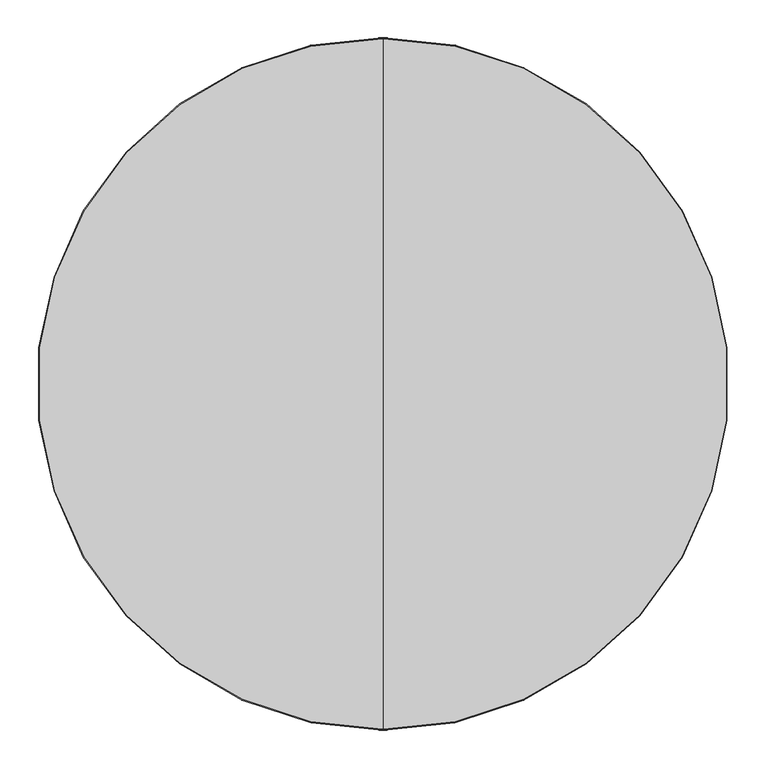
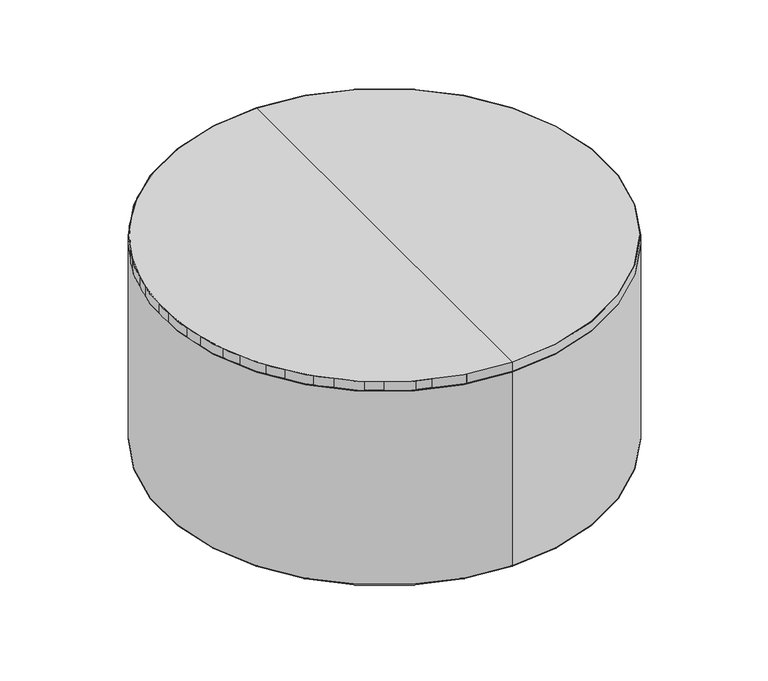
"""IFC4 building model written with IfcOpenShell, lengths in millimetres: furniture geometry, Indiana-Otty-Ottoman_Round_Table : 840-3618ROT."""

from ifc_helpers import new_model, si_unit, point, frame, origin, place, context, project, spatial, polyline, circle_curve, ellipse_curve, trimmed, source, transform, mapped, element, save
from ifc_brep_helpers import plane_surface, cylinder_surface, revolved_surface, advanced_brep


def furniture_db502461(model_context):
    return source(origin(), model_context, "Body", "AdvancedBrep", [
        advanced_brep(
        [(374.4189295, 85.5904719, 19.8875), (354.9333579, 96.8404719, 19.8875), (393.9045011, 74.3404719, 19.8875), (355.3217632, 96.616226, 4.2458827), (393.5160958, 74.5647178, 4.2458827), (359.2060099, 94.3736551, -0.1125), (389.6318491, 76.8072887, -0.1125), (365.5269116, 90.7242808, -0.1125), (383.3109474, 80.456663, -0.1125), (368.8996269, 88.7770427, 3.9179615), (379.9382321, 82.4039011, 3.9179615), (374.4189295, 85.5904719, 3.9179615)],
        [
            (0, 1),
            (1, 2, circle_curve(frame((374.4189295, 85.5904719, 19.8875), z_axis=(0.0, 0.0, 1.0), x_axis=(-0.8660254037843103, 0.5000000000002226, 0.0)), 22.5)),
            (2, 0),
            (2, 1, circle_curve(frame((374.4189295, 85.5904719, 19.8875), z_axis=(0.0, 0.0, 1.0), x_axis=(-0.8660254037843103, 0.5000000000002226, 0.0)), 22.5)),
            (1, 3),
            (3, 4, circle_curve(frame((374.4189295, 85.5904719, 4.2458827), z_axis=(0.0, 0.0, 1.0), x_axis=(-0.8660254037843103, 0.5000000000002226, 0.0)), 22.0515082)),
            (4, 2),
            (4, 3, circle_curve(frame((374.4189295, 85.5904719, 4.2458827), z_axis=(0.0, 0.0, 1.0), x_axis=(-0.8660254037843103, 0.5000000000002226, 0.0)), 22.0515082)),
            (3, 5, circle_curve(frame((359.2060099, 94.3736551, 4.3744851), z_axis=(-0.5000000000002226, -0.8660254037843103, 0.0), x_axis=(0.8660254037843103, -0.5000000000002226, 0.0)), 4.4869851)),
            (5, 6, circle_curve(frame((374.4189295, 85.5904719, -0.1125), z_axis=(0.0, 0.0, 1.0), x_axis=(-0.8660254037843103, 0.5000000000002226, 0.0)), 17.5663665)),
            (6, 4, circle_curve(frame((389.6318491, 76.8072887, 4.3744851), z_axis=(-0.5000000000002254, -0.8660254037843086, 0.0), x_axis=(-0.8660254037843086, 0.5000000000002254, 0.0)), 4.4869851)),
            (6, 5, circle_curve(frame((374.4189295, 85.5904719, -0.1125), z_axis=(0.0, 0.0, 1.0), x_axis=(-0.8660254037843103, 0.5000000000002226, 0.0)), 17.5663665)),
            (5, 7),
            (7, 8, circle_curve(frame((374.4189295, 85.5904719, -0.1125), z_axis=(0.0, 0.0, 1.0), x_axis=(-0.8660254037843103, 0.5000000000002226, 0.0)), 10.2676178)),
            (8, 6),
            (8, 7, circle_curve(frame((374.4189295, 85.5904719, -0.1125), z_axis=(0.0, 0.0, 1.0), x_axis=(-0.8660254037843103, 0.5000000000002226, 0.0)), 10.2676178)),
            (7, 9, circle_curve(frame((365.5269116, 90.7242808, 3.7842702), z_axis=(-0.5000000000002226, -0.8660254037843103, 0.0), x_axis=(0.8660254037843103, -0.5000000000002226, 0.0)), 3.8967702)),
            (9, 10, circle_curve(frame((374.4189295, 85.5904719, 3.9179615), z_axis=(0.0, 0.0, 1.0), x_axis=(-0.8660254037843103, 0.5000000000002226, 0.0)), 6.3731417)),
            (10, 8, circle_curve(frame((383.3109474, 80.456663, 3.7842702), z_axis=(-0.5000000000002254, -0.8660254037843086, 0.0), x_axis=(-0.8660254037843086, 0.5000000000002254, 0.0)), 3.8967702)),
            (10, 9, circle_curve(frame((374.4189295, 85.5904719, 3.9179615), z_axis=(0.0, 0.0, 1.0), x_axis=(-0.8660254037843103, 0.5000000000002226, 0.0)), 6.3731417)),
            (9, 11),
            (11, 10),
        ],
        [
            plane_surface(frame((374.4189295, 85.5904719, 19.8875), z_axis=(0.0, 0.0, 1.0000000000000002), x_axis=(-0.8660254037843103, 0.5000000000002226, 0.0))),
            revolved_surface(polyline([(355.3217632, 96.616226, 4.2458827), (354.9333579, 96.8404719, 19.8875)]), (374.4189295, 85.5904719, 31.0803862), (0.0, 0.0, 1.0)),
            revolved_surface(trimmed(ellipse_curve(frame((359.2060099, 94.3736551, 4.3744851), z_axis=(0.5000000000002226, 0.8660254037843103, 0.0), x_axis=(0.8660254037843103, -0.5000000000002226, 0.0)), 4.4869851, 4.4869851), [point((359.2060099, 94.3736551, -0.1125))], [point((355.3217632, 96.616226, 4.2458827))], True, "CARTESIAN"), (374.4189295, 85.5904719, 31.0803862), (0.0, 0.0, 1.0)),
            plane_surface(frame((374.4189295, 85.5904719, -0.1125), z_axis=(0.0, 0.0, -1.0000000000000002), x_axis=(-0.8660254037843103, 0.5000000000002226, 0.0))),
            revolved_surface(trimmed(ellipse_curve(frame((365.5269116, 90.7242808, 3.7842702), z_axis=(0.5000000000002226, 0.8660254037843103, 0.0), x_axis=(0.8660254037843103, -0.5000000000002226, 0.0)), 3.8967702, 3.8967702), [point((368.8996269, 88.7770427, 3.9179615))], [point((365.5269116, 90.7242808, -0.1125))], True, "CARTESIAN"), (374.4189295, 85.5904719, 31.0803862), (0.0, 0.0, 1.0)),
            plane_surface(frame((374.4189295, 85.5904719, 3.9179615), z_axis=(0.0, 0.0, -1.0000000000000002), x_axis=(-0.8660254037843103, 0.5000000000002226, 0.0))),
        ],
        [
            (0, [[1, 2, 3]]),
            (0, [[-3, 4, -1]]),
            (1, [[-2, 5, 6, 7]]),
            (1, [[-4, -7, 8, -5]]),
            (2, [[-6, 9, 10, 11]]),
            (2, [[-8, -11, 12, -9]]),
            (3, [[-10, 13, 14, 15]]),
            (3, [[-12, -15, 16, -13]]),
            (4, [[-14, 17, 18, 19]]),
            (4, [[-16, -19, 20, -17]]),
            (5, [[-18, 21, 22]]),
            (5, [[-20, -22, -21]]),
        ],
    ),
        advanced_brep(
        [(261.3329878, -281.4610687, 19.8875), (261.3329878, -258.9610687, 19.8875), (261.3329878, -303.9610687, 19.8875), (261.3329878, -259.4095604, 4.2458827), (261.3329878, -303.5125769, 4.2458827), (261.3329878, -263.8947022, -0.1125), (261.3329878, -299.0274351, -0.1125), (261.3329878, -271.1934508, -0.1125), (261.3329878, -291.7286865, -0.1125), (261.3329878, -275.087927, 3.9179615), (261.3329878, -287.8342103, 3.9179615), (261.3329878, -281.4610687, 3.9179615)],
        [
            (0, 1),
            (1, 2, circle_curve(frame((261.3329878, -281.4610687, 19.8875), z_axis=(0.0, 0.0, 1.0), x_axis=(0.0, 1.0, 0.0)), 22.5)),
            (2, 0),
            (2, 1, circle_curve(frame((261.3329878, -281.4610687, 19.8875), z_axis=(0.0, 0.0, 1.0), x_axis=(0.0, 1.0, 0.0)), 22.5)),
            (1, 3),
            (3, 4, circle_curve(frame((261.3329878, -281.4610687, 4.2458827), z_axis=(0.0, 0.0, 1.0), x_axis=(0.0, 1.0, 0.0)), 22.0515082)),
            (4, 2),
            (4, 3, circle_curve(frame((261.3329878, -281.4610687, 4.2458827), z_axis=(0.0, 0.0, 1.0), x_axis=(0.0, 1.0, 0.0)), 22.0515082)),
            (3, 5, circle_curve(frame((261.3329878, -263.8947022, 4.3744851), z_axis=(-1.0, 0.0, 0.0), x_axis=(0.0, -1.0, 0.0)), 4.4869851)),
            (5, 6, circle_curve(frame((261.3329878, -281.4610687, -0.1125), z_axis=(0.0, 0.0, 1.0), x_axis=(0.0, 1.0, 0.0)), 17.5663665)),
            (6, 4, circle_curve(frame((261.3329878, -299.0274351, 4.3744851), z_axis=(-1.0, 0.0, 0.0), x_axis=(0.0, 1.0, 0.0)), 4.4869851)),
            (6, 5, circle_curve(frame((261.3329878, -281.4610687, -0.1125), z_axis=(0.0, 0.0, 1.0), x_axis=(0.0, 1.0, 0.0)), 17.5663665)),
            (5, 7),
            (7, 8, circle_curve(frame((261.3329878, -281.4610687, -0.1125), z_axis=(0.0, 0.0, 1.0), x_axis=(0.0, 1.0, 0.0)), 10.2676178)),
            (8, 6),
            (8, 7, circle_curve(frame((261.3329878, -281.4610687, -0.1125), z_axis=(0.0, 0.0, 1.0), x_axis=(0.0, 1.0, 0.0)), 10.2676178)),
            (7, 9, circle_curve(frame((261.3329878, -271.1934508, 3.7842702), z_axis=(-1.0, 0.0, 0.0), x_axis=(0.0, -1.0, 0.0)), 3.8967702)),
            (9, 10, circle_curve(frame((261.3329878, -281.4610687, 3.9179615), z_axis=(0.0, 0.0, 1.0), x_axis=(0.0, 1.0, 0.0)), 6.3731417)),
            (10, 8, circle_curve(frame((261.3329878, -291.7286865, 3.7842702), z_axis=(-1.0, 0.0, 0.0), x_axis=(0.0, 1.0, 0.0)), 3.8967702)),
            (10, 9, circle_curve(frame((261.3329878, -281.4610687, 3.9179615), z_axis=(0.0, 0.0, 1.0), x_axis=(0.0, 1.0, 0.0)), 6.3731417)),
            (9, 11),
            (11, 10),
        ],
        [
            plane_surface(frame((261.3329878, -281.4610687, 19.8875), z_axis=(0.0, 0.0, 1.0), x_axis=(0.0, 1.0, 0.0))),
            revolved_surface(polyline([(261.3329878, -259.4095604, 4.2458827), (261.3329878, -258.9610687, 19.8875)]), (261.3329878, -281.4610687, 31.0803862), (0.0, 0.0, 1.0)),
            revolved_surface(trimmed(ellipse_curve(frame((261.3329878, -263.8947022, 4.3744851), z_axis=(1.0, 0.0, 0.0), x_axis=(0.0, -1.0, 0.0)), 4.4869851, 4.4869851), [point((261.3329878, -263.8947022, -0.1125))], [point((261.3329878, -259.4095604, 4.2458827))], True, "CARTESIAN"), (261.3329878, -281.4610687, 31.0803862), (0.0, 0.0, 1.0)),
            plane_surface(frame((261.3329878, -281.4610687, -0.1125), z_axis=(0.0, 0.0, -1.0), x_axis=(0.0, 1.0, 0.0))),
            revolved_surface(trimmed(ellipse_curve(frame((261.3329878, -271.1934508, 3.7842702), z_axis=(1.0, 0.0, 0.0), x_axis=(0.0, -1.0, 0.0)), 3.8967702, 3.8967702), [point((261.3329878, -275.087927, 3.9179615))], [point((261.3329878, -271.1934508, -0.1125))], True, "CARTESIAN"), (261.3329878, -281.4610687, 31.0803862), (0.0, 0.0, 1.0)),
            plane_surface(frame((261.3329878, -281.4610687, 3.9179615), z_axis=(0.0, 0.0, -1.0), x_axis=(0.0, 1.0, 0.0))),
        ],
        [
            (0, [[1, 2, 3]]),
            (0, [[-3, 4, -1]]),
            (1, [[-2, 5, 6, 7]]),
            (1, [[-4, -7, 8, -5]]),
            (2, [[-6, 9, 10, 11]]),
            (2, [[-8, -11, 12, -9]]),
            (3, [[-10, 13, 14, 15]]),
            (3, [[-12, -15, 16, -13]]),
            (4, [[-14, 17, 18, 19]]),
            (4, [[-16, -19, 20, -17]]),
            (5, [[-18, 21, 22]]),
            (5, [[-20, -22, -21]]),
        ],
    ),
        advanced_brep(
        [(0.0, -456.2078125, 438.15), (0.0, 456.2078125, 438.15), (0.0, 0.0, 438.15), (0.0, -456.2078125, 457.2), (0.0, 456.2078125, 457.2), (0.0, 0.0, 457.2)],
        [
            (0, 1, circle_curve(frame((0.0, 0.0, 438.15), z_axis=(0.0, 0.0, -1.0), x_axis=(0.0, 1.0, 0.0)), 456.2078125)),
            (1, 2),
            (2, 0),
            (1, 0, circle_curve(frame((0.0, 0.0, 438.15), z_axis=(0.0, 0.0, -1.0), x_axis=(0.0, 1.0, 0.0)), 456.2078125)),
            (3, 4, circle_curve(frame((0.0, 0.0, 457.2), z_axis=(0.0, 0.0, -1.0), x_axis=(0.0, 1.0, 0.0)), 456.2078125)),
            (4, 1),
            (0, 3),
            (4, 3, circle_curve(frame((0.0, 0.0, 457.2), z_axis=(0.0, 0.0, -1.0), x_axis=(0.0, 1.0, 0.0)), 456.2078125)),
            (5, 4),
            (3, 5),
        ],
        [
            plane_surface(frame((0.0, 0.0, 438.15), z_axis=(0.0, 0.0, -1.0), x_axis=(0.0, 1.0, 0.0))),
            cylinder_surface(frame((0.0, 0.0, 463.55), z_axis=(0.0, 0.0, 1.0), x_axis=(0.0, 1.0, 0.0)), 456.2078125),
            plane_surface(frame((0.0, 0.0, 457.2), z_axis=(0.0, 0.0, 1.0), x_axis=(0.0, 1.0, 0.0))),
        ],
        [
            (0, [[1, 2, 3]]),
            (0, [[4, -3, -2]]),
            (1, [[5, 6, -1, 7]]),
            (1, [[8, -7, -4, -6]]),
            (2, [[9, -5, 10]]),
            (2, [[-10, -8, -9]]),
        ],
    ),
        advanced_brep(
        [(0.0, -456.2078125, 438.15), (0.0, 456.2078125, 438.15), (0.0, 456.2078125, 457.2), (0.0, -456.2078125, 457.2), (0.0, -457.2, 438.15), (0.0, 457.2, 438.15), (0.0, -457.2, 457.2), (0.0, 457.2, 457.2)],
        [
            (0, 1, circle_curve(frame((0.0, 0.0, 438.15), z_axis=(0.0, 0.0, -1.0), x_axis=(0.0, 1.0, 0.0)), 456.2078125)),
            (1, 2),
            (2, 3, circle_curve(frame((0.0, 0.0, 457.2), z_axis=(0.0, 0.0, 1.0), x_axis=(0.0, 1.0, 0.0)), 456.2078125)),
            (3, 0),
            (1, 0, circle_curve(frame((0.0, 0.0, 438.15), z_axis=(0.0, 0.0, -1.0), x_axis=(0.0, 1.0, 0.0)), 456.2078125)),
            (3, 2, circle_curve(frame((0.0, 0.0, 457.2), z_axis=(0.0, 0.0, 1.0), x_axis=(0.0, 1.0, 0.0)), 456.2078125)),
            (4, 5, circle_curve(frame((0.0, 0.0, 438.15), z_axis=(0.0, 0.0, -1.0), x_axis=(0.0, 1.0, 0.0)), 457.2)),
            (5, 1),
            (0, 4),
            (5, 4, circle_curve(frame((0.0, 0.0, 438.15), z_axis=(0.0, 0.0, -1.0), x_axis=(0.0, 1.0, 0.0)), 457.2)),
            (6, 7, circle_curve(frame((0.0, 0.0, 457.2), z_axis=(0.0, 0.0, -1.0), x_axis=(0.0, 1.0, 0.0)), 457.2)),
            (7, 5),
            (4, 6),
            (7, 6, circle_curve(frame((0.0, 0.0, 457.2), z_axis=(0.0, 0.0, -1.0), x_axis=(0.0, 1.0, 0.0)), 457.2)),
            (2, 7),
            (6, 3),
        ],
        [
            revolved_surface(polyline([(0.0, 456.2078125, 457.2), (0.0, 456.2078125, 438.15)]), (0.0, 0.0, 476.25), (0.0, 0.0, 1.0)),
            plane_surface(frame((0.0, 0.0, 438.15), z_axis=(0.0, 0.0, -1.0), x_axis=(0.0, 1.0, 0.0))),
            cylinder_surface(frame((0.0, 0.0, 476.25), z_axis=(0.0, 0.0, 1.0), x_axis=(0.0, 1.0, 0.0)), 457.2),
            plane_surface(frame((0.0, 0.0, 457.2), z_axis=(0.0, 0.0, 1.0), x_axis=(0.0, 1.0, 0.0))),
        ],
        [
            (0, [[1, 2, 3, 4]]),
            (0, [[5, -4, 6, -2]]),
            (1, [[7, 8, -1, 9]]),
            (1, [[10, -9, -5, -8]]),
            (2, [[11, 12, -7, 13]]),
            (2, [[14, -13, -10, -12]]),
            (3, [[-3, 15, -11, 16]]),
            (3, [[-6, -16, -14, -15]]),
        ],
    ),
        advanced_brep(
        [(-113.0859418, -367.0515406, 19.8875), (-93.6003702, -355.8015406, 19.8875), (-132.5715133, -378.3015406, 19.8875), (-93.9887754, -356.0257864, 4.2458827), (-132.1831081, -378.0772947, 4.2458827), (-97.8730221, -358.2683573, -0.1125), (-128.2988614, -375.8347238, -0.1125), (-104.1939239, -361.9177316, -0.1125), (-121.9779596, -372.1853495, -0.1125), (-107.5666392, -363.8649697, 3.9179615), (-118.6052443, -370.2381114, 3.9179615), (-113.0859418, -367.0515406, 3.9179615)],
        [
            (0, 1),
            (1, 2, circle_curve(frame((-113.0859418, -367.0515406, 19.8875), z_axis=(0.0, 0.0, 1.0), x_axis=(0.866025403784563, 0.49999999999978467, 0.0)), 22.5)),
            (2, 0),
            (2, 1, circle_curve(frame((-113.0859418, -367.0515406, 19.8875), z_axis=(0.0, 0.0, 1.0), x_axis=(0.866025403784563, 0.49999999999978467, 0.0)), 22.5)),
            (1, 3),
            (3, 4, circle_curve(frame((-113.0859418, -367.0515406, 4.2458827), z_axis=(0.0, 0.0, 1.0), x_axis=(0.866025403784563, 0.49999999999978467, 0.0)), 22.0515082)),
            (4, 2),
            (4, 3, circle_curve(frame((-113.0859418, -367.0515406, 4.2458827), z_axis=(0.0, 0.0, 1.0), x_axis=(0.866025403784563, 0.49999999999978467, 0.0)), 22.0515082)),
            (3, 5, circle_curve(frame((-97.8730221, -358.2683573, 4.3744851), z_axis=(-0.49999999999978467, 0.866025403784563, 0.0), x_axis=(-0.866025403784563, -0.49999999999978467, 0.0)), 4.4869851)),
            (5, 6, circle_curve(frame((-113.0859418, -367.0515406, -0.1125), z_axis=(0.0, 0.0, 1.0), x_axis=(0.866025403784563, 0.49999999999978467, 0.0)), 17.5663665)),
            (6, 4, circle_curve(frame((-128.2988614, -375.8347238, 4.3744851), z_axis=(-0.4999999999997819, 0.8660254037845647, 0.0), x_axis=(0.8660254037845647, 0.4999999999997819, 0.0)), 4.4869851)),
            (6, 5, circle_curve(frame((-113.0859418, -367.0515406, -0.1125), z_axis=(0.0, 0.0, 1.0), x_axis=(0.866025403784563, 0.49999999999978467, 0.0)), 17.5663665)),
            (5, 7),
            (7, 8, circle_curve(frame((-113.0859418, -367.0515406, -0.1125), z_axis=(0.0, 0.0, 1.0), x_axis=(0.866025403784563, 0.49999999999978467, 0.0)), 10.2676178)),
            (8, 6),
            (8, 7, circle_curve(frame((-113.0859418, -367.0515406, -0.1125), z_axis=(0.0, 0.0, 1.0), x_axis=(0.866025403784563, 0.49999999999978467, 0.0)), 10.2676178)),
            (7, 9, circle_curve(frame((-104.1939239, -361.9177316, 3.7842702), z_axis=(-0.49999999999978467, 0.866025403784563, 0.0), x_axis=(-0.866025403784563, -0.49999999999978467, 0.0)), 3.8967702)),
            (9, 10, circle_curve(frame((-113.0859418, -367.0515406, 3.9179615), z_axis=(0.0, 0.0, 1.0), x_axis=(0.866025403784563, 0.49999999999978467, 0.0)), 6.3731417)),
            (10, 8, circle_curve(frame((-121.9779596, -372.1853495, 3.7842702), z_axis=(-0.4999999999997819, 0.8660254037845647, 0.0), x_axis=(0.8660254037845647, 0.4999999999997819, 0.0)), 3.8967702)),
            (10, 9, circle_curve(frame((-113.0859418, -367.0515406, 3.9179615), z_axis=(0.0, 0.0, 1.0), x_axis=(0.866025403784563, 0.49999999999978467, 0.0)), 6.3731417)),
            (9, 11),
            (11, 10),
        ],
        [
            plane_surface(frame((-113.0859418, -367.0515406, 19.8875), z_axis=(0.0, 0.0, 1.0000000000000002), x_axis=(0.866025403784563, 0.49999999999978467, 0.0))),
            revolved_surface(polyline([(-93.9887754, -356.0257864, 4.2458827), (-93.6003702, -355.8015406, 19.8875)]), (-113.0859418, -367.0515406, 31.0803862), (0.0, 0.0, 1.0)),
            revolved_surface(trimmed(ellipse_curve(frame((-97.8730221, -358.2683573, 4.3744851), z_axis=(0.49999999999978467, -0.866025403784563, 0.0), x_axis=(-0.866025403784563, -0.49999999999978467, 0.0)), 4.4869851, 4.4869851), [point((-97.8730221, -358.2683573, -0.1125))], [point((-93.9887754, -356.0257864, 4.2458827))], True, "CARTESIAN"), (-113.0859418, -367.0515406, 31.0803862), (0.0, 0.0, 1.0)),
            plane_surface(frame((-113.0859418, -367.0515406, -0.1125), z_axis=(0.0, 0.0, -1.0000000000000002), x_axis=(0.866025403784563, 0.49999999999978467, 0.0))),
            revolved_surface(trimmed(ellipse_curve(frame((-104.1939239, -361.9177316, 3.7842702), z_axis=(0.49999999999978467, -0.866025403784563, 0.0), x_axis=(-0.866025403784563, -0.49999999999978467, 0.0)), 3.8967702, 3.8967702), [point((-107.5666392, -363.8649697, 3.9179615))], [point((-104.1939239, -361.9177316, -0.1125))], True, "CARTESIAN"), (-113.0859418, -367.0515406, 31.0803862), (0.0, 0.0, 1.0)),
            plane_surface(frame((-113.0859418, -367.0515406, 3.9179615), z_axis=(0.0, 0.0, -1.0000000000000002), x_axis=(0.866025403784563, 0.49999999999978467, 0.0))),
        ],
        [
            (0, [[1, 2, 3]]),
            (0, [[-3, 4, -1]]),
            (1, [[-2, 5, 6, 7]]),
            (1, [[-4, -7, 8, -5]]),
            (2, [[-6, 9, 10, 11]]),
            (2, [[-8, -11, 12, -9]]),
            (3, [[-10, 13, 14, 15]]),
            (3, [[-12, -15, 16, -13]]),
            (4, [[-14, 17, 18, 19]]),
            (4, [[-16, -19, 20, -17]]),
            (5, [[-18, 21, 22]]),
            (5, [[-20, -22, -21]]),
        ],
    ),
        advanced_brep(
        [(-374.4189295, -85.5904719, 19.8875), (-354.9333579, -96.8404719, 19.8875), (-393.9045011, -74.3404719, 19.8875), (-355.3217632, -96.616226, 4.2458827), (-393.5160958, -74.5647178, 4.2458827), (-359.2060099, -94.3736551, -0.1125), (-389.6318491, -76.8072887, -0.1125), (-365.5269116, -90.7242808, -0.1125), (-383.3109474, -80.456663, -0.1125), (-368.8996269, -88.7770427, 3.9179615), (-379.9382321, -82.4039011, 3.9179615), (-374.4189295, -85.5904719, 3.9179615)],
        [
            (0, 1),
            (1, 2, circle_curve(frame((-374.4189295, -85.5904719, 19.8875), z_axis=(0.0, 0.0, 1.0), x_axis=(0.8660254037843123, -0.500000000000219, 0.0)), 22.5)),
            (2, 0),
            (2, 1, circle_curve(frame((-374.4189295, -85.5904719, 19.8875), z_axis=(0.0, 0.0, 1.0), x_axis=(0.8660254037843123, -0.500000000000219, 0.0)), 22.5)),
            (1, 3),
            (3, 4, circle_curve(frame((-374.4189295, -85.5904719, 4.2458827), z_axis=(0.0, 0.0, 1.0), x_axis=(0.8660254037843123, -0.500000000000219, 0.0)), 22.0515082)),
            (4, 2),
            (4, 3, circle_curve(frame((-374.4189295, -85.5904719, 4.2458827), z_axis=(0.0, 0.0, 1.0), x_axis=(0.8660254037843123, -0.500000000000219, 0.0)), 22.0515082)),
            (3, 5, circle_curve(frame((-359.2060099, -94.3736551, 4.3744851), z_axis=(0.500000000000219, 0.8660254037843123, 0.0), x_axis=(-0.8660254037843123, 0.500000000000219, 0.0)), 4.4869851)),
            (5, 6, circle_curve(frame((-374.4189295, -85.5904719, -0.1125), z_axis=(0.0, 0.0, 1.0), x_axis=(0.8660254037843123, -0.500000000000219, 0.0)), 17.5663665)),
            (6, 4, circle_curve(frame((-389.6318491, -76.8072887, 4.3744851), z_axis=(0.5000000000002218, 0.8660254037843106, 0.0), x_axis=(0.8660254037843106, -0.5000000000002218, 0.0)), 4.4869851)),
            (6, 5, circle_curve(frame((-374.4189295, -85.5904719, -0.1125), z_axis=(0.0, 0.0, 1.0), x_axis=(0.8660254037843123, -0.500000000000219, 0.0)), 17.5663665)),
            (5, 7),
            (7, 8, circle_curve(frame((-374.4189295, -85.5904719, -0.1125), z_axis=(0.0, 0.0, 1.0), x_axis=(0.8660254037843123, -0.500000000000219, 0.0)), 10.2676178)),
            (8, 6),
            (8, 7, circle_curve(frame((-374.4189295, -85.5904719, -0.1125), z_axis=(0.0, 0.0, 1.0), x_axis=(0.8660254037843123, -0.500000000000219, 0.0)), 10.2676178)),
            (7, 9, circle_curve(frame((-365.5269116, -90.7242808, 3.7842702), z_axis=(0.500000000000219, 0.8660254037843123, 0.0), x_axis=(-0.8660254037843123, 0.500000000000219, 0.0)), 3.8967702)),
            (9, 10, circle_curve(frame((-374.4189295, -85.5904719, 3.9179615), z_axis=(0.0, 0.0, 1.0), x_axis=(0.8660254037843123, -0.500000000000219, 0.0)), 6.3731417)),
            (10, 8, circle_curve(frame((-383.3109474, -80.456663, 3.7842702), z_axis=(0.5000000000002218, 0.8660254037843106, 0.0), x_axis=(0.8660254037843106, -0.5000000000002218, 0.0)), 3.8967702)),
            (10, 9, circle_curve(frame((-374.4189295, -85.5904719, 3.9179615), z_axis=(0.0, 0.0, 1.0), x_axis=(0.8660254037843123, -0.500000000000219, 0.0)), 6.3731417)),
            (9, 11),
            (11, 10),
        ],
        [
            plane_surface(frame((-374.4189295, -85.5904719, 19.8875), z_axis=(0.0, 0.0, 1.0), x_axis=(0.8660254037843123, -0.500000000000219, 0.0))),
            revolved_surface(polyline([(-355.3217632, -96.616226, 4.2458827), (-354.9333579, -96.8404719, 19.8875)]), (-374.4189295, -85.5904719, 31.0803862), (0.0, 0.0, 1.0)),
            revolved_surface(trimmed(ellipse_curve(frame((-359.2060099, -94.3736551, 4.3744851), z_axis=(-0.500000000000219, -0.8660254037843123, 0.0), x_axis=(-0.8660254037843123, 0.500000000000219, 0.0)), 4.4869851, 4.4869851), [point((-359.2060099, -94.3736551, -0.1125))], [point((-355.3217632, -96.616226, 4.2458827))], True, "CARTESIAN"), (-374.4189295, -85.5904719, 31.0803862), (0.0, 0.0, 1.0)),
            plane_surface(frame((-374.4189295, -85.5904719, -0.1125), z_axis=(0.0, 0.0, -1.0), x_axis=(0.8660254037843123, -0.500000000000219, 0.0))),
            revolved_surface(trimmed(ellipse_curve(frame((-365.5269116, -90.7242808, 3.7842702), z_axis=(-0.500000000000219, -0.8660254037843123, 0.0), x_axis=(-0.8660254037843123, 0.500000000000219, 0.0)), 3.8967702, 3.8967702), [point((-368.8996269, -88.7770427, 3.9179615))], [point((-365.5269116, -90.7242808, -0.1125))], True, "CARTESIAN"), (-374.4189295, -85.5904719, 31.0803862), (0.0, 0.0, 1.0)),
            plane_surface(frame((-374.4189295, -85.5904719, 3.9179615), z_axis=(0.0, 0.0, -1.0), x_axis=(0.8660254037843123, -0.500000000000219, 0.0))),
        ],
        [
            (0, [[1, 2, 3]]),
            (0, [[-3, 4, -1]]),
            (1, [[-2, 5, 6, 7]]),
            (1, [[-4, -7, 8, -5]]),
            (2, [[-6, 9, 10, 11]]),
            (2, [[-8, -11, 12, -9]]),
            (3, [[-10, 13, 14, 15]]),
            (3, [[-12, -15, 16, -13]]),
            (4, [[-14, 17, 18, 19]]),
            (4, [[-16, -19, 20, -17]]),
            (5, [[-18, 21, 22]]),
            (5, [[-20, -22, -21]]),
        ],
    ),
        advanced_brep(
        [(113.0859418, 367.0515406, 19.8875), (93.6003702, 355.8015406, 19.8875), (132.5715133, 378.3015406, 19.8875), (93.9887754, 356.0257864, 4.2458827), (132.1831081, 378.0772947, 4.2458827), (97.8730221, 358.2683573, -0.1125), (128.2988614, 375.8347238, -0.1125), (104.1939239, 361.9177316, -0.1125), (121.9779596, 372.1853495, -0.1125), (107.5666392, 363.8649697, 3.9179615), (118.6052443, 370.2381114, 3.9179615), (113.0859418, 367.0515406, 3.9179615)],
        [
            (0, 1),
            (1, 2, circle_curve(frame((113.0859418, 367.0515406, 19.8875), z_axis=(0.0, 0.0, 1.0), x_axis=(-0.8660254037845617, -0.4999999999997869, 0.0)), 22.5)),
            (2, 0),
            (2, 1, circle_curve(frame((113.0859418, 367.0515406, 19.8875), z_axis=(0.0, 0.0, 1.0), x_axis=(-0.8660254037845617, -0.4999999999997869, 0.0)), 22.5)),
            (1, 3),
            (3, 4, circle_curve(frame((113.0859418, 367.0515406, 4.2458827), z_axis=(0.0, 0.0, 1.0), x_axis=(-0.8660254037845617, -0.4999999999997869, 0.0)), 22.0515082)),
            (4, 2),
            (4, 3, circle_curve(frame((113.0859418, 367.0515406, 4.2458827), z_axis=(0.0, 0.0, 1.0), x_axis=(-0.8660254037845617, -0.4999999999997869, 0.0)), 22.0515082)),
            (3, 5, circle_curve(frame((97.8730221, 358.2683573, 4.3744851), z_axis=(0.4999999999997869, -0.8660254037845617, 0.0), x_axis=(0.8660254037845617, 0.4999999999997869, 0.0)), 4.4869851)),
            (5, 6, circle_curve(frame((113.0859418, 367.0515406, -0.1125), z_axis=(0.0, 0.0, 1.0), x_axis=(-0.8660254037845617, -0.4999999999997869, 0.0)), 17.5663665)),
            (6, 4, circle_curve(frame((128.2988614, 375.8347238, 4.3744851), z_axis=(0.4999999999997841, -0.8660254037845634, 0.0), x_axis=(-0.8660254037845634, -0.4999999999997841, 0.0)), 4.4869851)),
            (6, 5, circle_curve(frame((113.0859418, 367.0515406, -0.1125), z_axis=(0.0, 0.0, 1.0), x_axis=(-0.8660254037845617, -0.4999999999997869, 0.0)), 17.5663665)),
            (5, 7),
            (7, 8, circle_curve(frame((113.0859418, 367.0515406, -0.1125), z_axis=(0.0, 0.0, 1.0), x_axis=(-0.8660254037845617, -0.4999999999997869, 0.0)), 10.2676178)),
            (8, 6),
            (8, 7, circle_curve(frame((113.0859418, 367.0515406, -0.1125), z_axis=(0.0, 0.0, 1.0), x_axis=(-0.8660254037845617, -0.4999999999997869, 0.0)), 10.2676178)),
            (7, 9, circle_curve(frame((104.1939239, 361.9177316, 3.7842702), z_axis=(0.4999999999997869, -0.8660254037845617, 0.0), x_axis=(0.8660254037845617, 0.4999999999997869, 0.0)), 3.8967702)),
            (9, 10, circle_curve(frame((113.0859418, 367.0515406, 3.9179615), z_axis=(0.0, 0.0, 1.0), x_axis=(-0.8660254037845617, -0.4999999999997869, 0.0)), 6.3731417)),
            (10, 8, circle_curve(frame((121.9779596, 372.1853495, 3.7842702), z_axis=(0.4999999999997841, -0.8660254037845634, 0.0), x_axis=(-0.8660254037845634, -0.4999999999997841, 0.0)), 3.8967702)),
            (10, 9, circle_curve(frame((113.0859418, 367.0515406, 3.9179615), z_axis=(0.0, 0.0, 1.0), x_axis=(-0.8660254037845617, -0.4999999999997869, 0.0)), 6.3731417)),
            (9, 11),
            (11, 10),
        ],
        [
            plane_surface(frame((113.0859418, 367.0515406, 19.8875), z_axis=(0.0, 0.0, 1.0), x_axis=(-0.8660254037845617, -0.4999999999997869, 0.0))),
            revolved_surface(polyline([(93.9887754, 356.0257864, 4.2458827), (93.6003702, 355.8015406, 19.8875)]), (113.0859418, 367.0515406, 31.0803862), (0.0, 0.0, 1.0)),
            revolved_surface(trimmed(ellipse_curve(frame((97.8730221, 358.2683573, 4.3744851), z_axis=(-0.4999999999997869, 0.8660254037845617, 0.0), x_axis=(0.8660254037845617, 0.4999999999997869, 0.0)), 4.4869851, 4.4869851), [point((97.8730221, 358.2683573, -0.1125))], [point((93.9887754, 356.0257864, 4.2458827))], True, "CARTESIAN"), (113.0859418, 367.0515406, 31.0803862), (0.0, 0.0, 1.0)),
            plane_surface(frame((113.0859418, 367.0515406, -0.1125), z_axis=(0.0, 0.0, -1.0), x_axis=(-0.8660254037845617, -0.4999999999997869, 0.0))),
            revolved_surface(trimmed(ellipse_curve(frame((104.1939239, 361.9177316, 3.7842702), z_axis=(-0.4999999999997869, 0.8660254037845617, 0.0), x_axis=(0.8660254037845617, 0.4999999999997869, 0.0)), 3.8967702, 3.8967702), [point((107.5666392, 363.8649697, 3.9179615))], [point((104.1939239, 361.9177316, -0.1125))], True, "CARTESIAN"), (113.0859418, 367.0515406, 31.0803862), (0.0, 0.0, 1.0)),
            plane_surface(frame((113.0859418, 367.0515406, 3.9179615), z_axis=(0.0, 0.0, -1.0), x_axis=(-0.8660254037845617, -0.4999999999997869, 0.0))),
        ],
        [
            (0, [[1, 2, 3]]),
            (0, [[-3, 4, -1]]),
            (1, [[-2, 5, 6, 7]]),
            (1, [[-4, -7, 8, -5]]),
            (2, [[-6, 9, 10, 11]]),
            (2, [[-8, -11, 12, -9]]),
            (3, [[-10, 13, 14, 15]]),
            (3, [[-12, -15, 16, -13]]),
            (4, [[-14, 17, 18, 19]]),
            (4, [[-16, -19, 20, -17]]),
            (5, [[-18, 21, 22]]),
            (5, [[-20, -22, -21]]),
        ],
    ),
        advanced_brep(
        [(-261.3329878, 281.4610687, 19.8875), (-261.3329878, 258.9610687, 19.8875), (-261.3329878, 303.9610687, 19.8875), (-261.3329878, 259.4095604, 4.2458827), (-261.3329878, 303.5125769, 4.2458827), (-261.3329878, 263.8947022, -0.1125), (-261.3329878, 299.0274351, -0.1125), (-261.3329878, 271.1934508, -0.1125), (-261.3329878, 291.7286865, -0.1125), (-261.3329878, 275.087927, 3.9179615), (-261.3329878, 287.8342103, 3.9179615), (-261.3329878, 281.4610687, 3.9179615)],
        [
            (0, 1),
            (1, 2, circle_curve(frame((-261.3329878, 281.4610687, 19.8875), z_axis=(0.0, 0.0, 1.0), x_axis=(0.0, -1.0, 0.0)), 22.5)),
            (2, 0),
            (2, 1, circle_curve(frame((-261.3329878, 281.4610687, 19.8875), z_axis=(0.0, 0.0, 1.0), x_axis=(0.0, -1.0, 0.0)), 22.5)),
            (1, 3),
            (3, 4, circle_curve(frame((-261.3329878, 281.4610687, 4.2458827), z_axis=(0.0, 0.0, 1.0), x_axis=(0.0, -1.0, 0.0)), 22.0515082)),
            (4, 2),
            (4, 3, circle_curve(frame((-261.3329878, 281.4610687, 4.2458827), z_axis=(0.0, 0.0, 1.0), x_axis=(0.0, -1.0, 0.0)), 22.0515082)),
            (3, 5, circle_curve(frame((-261.3329878, 263.8947022, 4.3744851), z_axis=(1.0, 0.0, 0.0), x_axis=(0.0, 1.0, 0.0)), 4.4869851)),
            (5, 6, circle_curve(frame((-261.3329878, 281.4610687, -0.1125), z_axis=(0.0, 0.0, 1.0), x_axis=(0.0, -1.0, 0.0)), 17.5663665)),
            (6, 4, circle_curve(frame((-261.3329878, 299.0274351, 4.3744851), z_axis=(1.0, 0.0, 0.0), x_axis=(0.0, -1.0, 0.0)), 4.4869851)),
            (6, 5, circle_curve(frame((-261.3329878, 281.4610687, -0.1125), z_axis=(0.0, 0.0, 1.0), x_axis=(0.0, -1.0, 0.0)), 17.5663665)),
            (5, 7),
            (7, 8, circle_curve(frame((-261.3329878, 281.4610687, -0.1125), z_axis=(0.0, 0.0, 1.0), x_axis=(0.0, -1.0, 0.0)), 10.2676178)),
            (8, 6),
            (8, 7, circle_curve(frame((-261.3329878, 281.4610687, -0.1125), z_axis=(0.0, 0.0, 1.0), x_axis=(0.0, -1.0, 0.0)), 10.2676178)),
            (7, 9, circle_curve(frame((-261.3329878, 271.1934508, 3.7842702), z_axis=(1.0, 0.0, 0.0), x_axis=(0.0, 1.0, 0.0)), 3.8967702)),
            (9, 10, circle_curve(frame((-261.3329878, 281.4610687, 3.9179615), z_axis=(0.0, 0.0, 1.0), x_axis=(0.0, -1.0, 0.0)), 6.3731417)),
            (10, 8, circle_curve(frame((-261.3329878, 291.7286865, 3.7842702), z_axis=(1.0, 0.0, 0.0), x_axis=(0.0, -1.0, 0.0)), 3.8967702)),
            (10, 9, circle_curve(frame((-261.3329878, 281.4610687, 3.9179615), z_axis=(0.0, 0.0, 1.0), x_axis=(0.0, -1.0, 0.0)), 6.3731417)),
            (9, 11),
            (11, 10),
        ],
        [
            plane_surface(frame((-261.3329878, 281.4610687, 19.8875), z_axis=(0.0, 0.0, 1.0), x_axis=(0.0, -1.0, 0.0))),
            revolved_surface(polyline([(-261.3329878, 259.4095604, 4.2458827), (-261.3329878, 258.9610687, 19.8875)]), (-261.3329878, 281.4610687, 31.0803862), (0.0, 0.0, 1.0)),
            revolved_surface(trimmed(ellipse_curve(frame((-261.3329878, 263.8947022, 4.3744851), z_axis=(-1.0, 0.0, 0.0), x_axis=(0.0, 1.0, 0.0)), 4.4869851, 4.4869851), [point((-261.3329878, 263.8947022, -0.1125))], [point((-261.3329878, 259.4095604, 4.2458827))], True, "CARTESIAN"), (-261.3329878, 281.4610687, 31.0803862), (0.0, 0.0, 1.0)),
            plane_surface(frame((-261.3329878, 281.4610687, -0.1125), z_axis=(0.0, 0.0, -1.0), x_axis=(0.0, -1.0, 0.0))),
            revolved_surface(trimmed(ellipse_curve(frame((-261.3329878, 271.1934508, 3.7842702), z_axis=(-1.0, 0.0, 0.0), x_axis=(0.0, 1.0, 0.0)), 3.8967702, 3.8967702), [point((-261.3329878, 275.087927, 3.9179615))], [point((-261.3329878, 271.1934508, -0.1125))], True, "CARTESIAN"), (-261.3329878, 281.4610687, 31.0803862), (0.0, 0.0, 1.0)),
            plane_surface(frame((-261.3329878, 281.4610687, 3.9179615), z_axis=(0.0, 0.0, -1.0), x_axis=(0.0, -1.0, 0.0))),
        ],
        [
            (0, [[1, 2, 3]]),
            (0, [[-3, 4, -1]]),
            (1, [[-2, 5, 6, 7]]),
            (1, [[-4, -7, 8, -5]]),
            (2, [[-6, 9, 10, 11]]),
            (2, [[-8, -11, 12, -9]]),
            (3, [[-10, 13, 14, 15]]),
            (3, [[-12, -15, 16, -13]]),
            (4, [[-14, 17, 18, 19]]),
            (4, [[-16, -19, 20, -17]]),
            (5, [[-18, 21, 22]]),
            (5, [[-20, -22, -21]]),
        ],
    ),
        advanced_brep(
        [(0.0, 457.2, 14.675), (0.0, 454.025, 11.5), (0.0, -454.025, 11.5), (0.0, -457.2, 14.675), (0.0, 457.2, 436.165625), (0.0, -457.2, 436.165625), (0.0, 0.0, 438.15), (0.0, 455.215625, 438.15), (0.0, -455.215625, 438.15), (0.0, 0.0, 11.5), (-385.9283045, -105.5252942, 11.5), (-362.9095545, -65.6556496, 11.5), (-101.5765668, -386.9863628, 11.5), (-124.5953168, -347.1167183, 11.5), (-284.3517378, 281.4610687, 11.5), (-238.3142378, 281.4610687, 11.5), (101.5765668, 386.9863628, 11.5), (124.5953168, 347.1167183, 11.5), (284.3517378, -281.4610687, 11.5), (238.3142378, -281.4610687, 11.5), (385.9283045, 105.5252942, 11.5), (362.9095545, 65.6556496, 11.5), (-362.9095545, -65.6556496, 19.834375), (-385.9283045, -105.5252942, 19.834375), (-124.5953168, -347.1167183, 19.834375), (-101.5765668, -386.9863628, 19.834375), (124.5953168, 347.1167183, 19.834375), (101.5765668, 386.9863628, 19.834375), (-238.3142378, 281.4610687, 19.834375), (-284.3517378, 281.4610687, 19.834375), (238.3142378, -281.4610687, 19.834375), (284.3517378, -281.4610687, 19.834375), (362.9095545, 65.6556496, 19.834375), (385.9283045, 105.5252942, 19.834375)],
        [
            (0, 1, circle_curve(frame((0.0, 454.025, 14.675), z_axis=(-1.0, 0.0, 0.0), x_axis=(0.0, 1.0, 0.0)), 3.175)),
            (1, 2, circle_curve(frame((0.0, 0.0, 11.5), z_axis=(0.0, 0.0, 1.0), x_axis=(0.0, 1.0, 0.0)), 454.025)),
            (2, 3, circle_curve(frame((0.0, -454.025, 14.675), z_axis=(-1.0, 0.0, 0.0), x_axis=(0.0, -1.0, 0.0)), 3.175)),
            (3, 0, circle_curve(frame((0.0, 0.0, 14.675), z_axis=(0.0, 0.0, -1.0), x_axis=(0.0, 1.0, 0.0)), 457.2)),
            (0, 3, circle_curve(frame((0.0, 0.0, 14.675), z_axis=(0.0, 0.0, -1.0), x_axis=(0.0, 1.0, 0.0)), 457.2)),
            (2, 1, circle_curve(frame((0.0, 0.0, 11.5), z_axis=(0.0, 0.0, 1.0), x_axis=(0.0, 1.0, 0.0)), 454.025)),
            (4, 0),
            (3, 5),
            (5, 4, circle_curve(frame((0.0, 0.0, 436.165625), z_axis=(0.0, 0.0, -1.0), x_axis=(0.0, 1.0, 0.0)), 457.2)),
            (4, 5, circle_curve(frame((0.0, 0.0, 436.165625), z_axis=(0.0, 0.0, -1.0), x_axis=(0.0, 1.0, 0.0)), 457.2)),
            (6, 7),
            (7, 8, circle_curve(frame((0.0, 0.0, 438.15), z_axis=(0.0, 0.0, 1.0), x_axis=(0.0, 1.0, 0.0)), 455.215625)),
            (8, 6),
            (8, 7, circle_curve(frame((0.0, 0.0, 438.15), z_axis=(0.0, 0.0, 1.0), x_axis=(0.0, 1.0, 0.0)), 455.215625)),
            (1, 9),
            (9, 2),
            (10, 11, circle_curve(frame((-374.4189295, -85.5904719, 11.5), z_axis=(0.0, 0.0, 1.0), x_axis=(-0.500000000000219, -0.8660254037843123, 0.0)), 23.01875)),
            (11, 10, circle_curve(frame((-374.4189295, -85.5904719, 11.5), z_axis=(0.0, 0.0, 1.0), x_axis=(-0.500000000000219, -0.8660254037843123, 0.0)), 23.01875)),
            (12, 13, circle_curve(frame((-113.0859418, -367.0515406, 11.5), z_axis=(0.0, 0.0, 1.0), x_axis=(0.49999999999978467, -0.866025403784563, 0.0)), 23.01875)),
            (13, 12, circle_curve(frame((-113.0859418, -367.0515406, 11.5), z_axis=(0.0, 0.0, 1.0), x_axis=(0.49999999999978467, -0.866025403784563, 0.0)), 23.01875)),
            (14, 15, circle_curve(frame((-261.3329878, 281.4610687, 11.5), z_axis=(0.0, 0.0, 1.0), x_axis=(-1.0, 0.0, 0.0)), 23.01875)),
            (15, 14, circle_curve(frame((-261.3329878, 281.4610687, 11.5), z_axis=(0.0, 0.0, 1.0), x_axis=(-1.0, 0.0, 0.0)), 23.01875)),
            (16, 17, circle_curve(frame((113.0859418, 367.0515406, 11.5), z_axis=(0.0, 0.0, 1.0), x_axis=(-0.4999999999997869, 0.8660254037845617, 0.0)), 23.01875)),
            (17, 16, circle_curve(frame((113.0859418, 367.0515406, 11.5), z_axis=(0.0, 0.0, 1.0), x_axis=(-0.4999999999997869, 0.8660254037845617, 0.0)), 23.01875)),
            (18, 19, circle_curve(frame((261.3329878, -281.4610687, 11.5), z_axis=(0.0, 0.0, 1.0), x_axis=(1.0, 0.0, 0.0)), 23.01875)),
            (19, 18, circle_curve(frame((261.3329878, -281.4610687, 11.5), z_axis=(0.0, 0.0, 1.0), x_axis=(1.0, 0.0, 0.0)), 23.01875)),
            (20, 21, circle_curve(frame((374.4189295, 85.5904719, 11.5), z_axis=(0.0, 0.0, 1.0), x_axis=(0.5000000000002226, 0.8660254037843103, 0.0)), 23.01875)),
            (21, 20, circle_curve(frame((374.4189295, 85.5904719, 11.5), z_axis=(0.0, 0.0, 1.0), x_axis=(0.5000000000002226, 0.8660254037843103, 0.0)), 23.01875)),
            (22, 23, circle_curve(frame((-374.4189295, -85.5904719, 19.834375), z_axis=(0.0, 0.0, -1.0), x_axis=(-0.500000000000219, -0.8660254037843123, 0.0)), 23.01875)),
            (23, 22, circle_curve(frame((-374.4189295, -85.5904719, 19.834375), z_axis=(0.0, 0.0, -1.0), x_axis=(-0.500000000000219, -0.8660254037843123, 0.0)), 23.01875)),
            (22, 11),
            (10, 23),
            (24, 25, circle_curve(frame((-113.0859418, -367.0515406, 19.834375), z_axis=(0.0, 0.0, -1.0), x_axis=(0.49999999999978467, -0.866025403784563, 0.0)), 23.01875)),
            (25, 24, circle_curve(frame((-113.0859418, -367.0515406, 19.834375), z_axis=(0.0, 0.0, -1.0), x_axis=(0.49999999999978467, -0.866025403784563, 0.0)), 23.01875)),
            (24, 13),
            (12, 25),
            (26, 27, circle_curve(frame((113.0859418, 367.0515406, 19.834375), z_axis=(0.0, 0.0, -1.0), x_axis=(-0.4999999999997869, 0.8660254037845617, 0.0)), 23.01875)),
            (27, 26, circle_curve(frame((113.0859418, 367.0515406, 19.834375), z_axis=(0.0, 0.0, -1.0), x_axis=(-0.4999999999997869, 0.8660254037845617, 0.0)), 23.01875)),
            (26, 17),
            (16, 27),
            (7, 4, circle_curve(frame((0.0, 455.215625, 436.165625), z_axis=(-1.0, 0.0, 0.0), x_axis=(0.0, 1.0, 0.0)), 1.984375)),
            (5, 8, circle_curve(frame((0.0, -455.215625, 436.165625), z_axis=(-1.0, 0.0, 0.0), x_axis=(0.0, -1.0, 0.0)), 1.984375)),
            (28, 29, circle_curve(frame((-261.3329878, 281.4610687, 19.834375), z_axis=(0.0, 0.0, -1.0), x_axis=(-1.0, 0.0, 0.0)), 23.01875)),
            (29, 28, circle_curve(frame((-261.3329878, 281.4610687, 19.834375), z_axis=(0.0, 0.0, -1.0), x_axis=(-1.0, 0.0, 0.0)), 23.01875)),
            (28, 15),
            (14, 29),
            (30, 31, circle_curve(frame((261.3329878, -281.4610687, 19.834375), z_axis=(0.0, 0.0, -1.0), x_axis=(1.0, 0.0, 0.0)), 23.01875)),
            (31, 30, circle_curve(frame((261.3329878, -281.4610687, 19.834375), z_axis=(0.0, 0.0, -1.0), x_axis=(1.0, 0.0, 0.0)), 23.01875)),
            (30, 19),
            (18, 31),
            (32, 33, circle_curve(frame((374.4189295, 85.5904719, 19.834375), z_axis=(0.0, 0.0, -1.0), x_axis=(0.5000000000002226, 0.8660254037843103, 0.0)), 23.01875)),
            (33, 32, circle_curve(frame((374.4189295, 85.5904719, 19.834375), z_axis=(0.0, 0.0, -1.0), x_axis=(0.5000000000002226, 0.8660254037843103, 0.0)), 23.01875)),
            (32, 21),
            (20, 33),
        ],
        [
            revolved_surface(trimmed(ellipse_curve(frame((0.0, 454.025, 14.675), z_axis=(1.0, 0.0, 0.0), x_axis=(0.0, 1.0, 0.0)), 3.175, 3.175), [point((0.0, 454.025, 11.5))], [point((0.0, 457.2, 14.675))], True, "CARTESIAN"), (0.0, 0.0, 692.15), (0.0, 0.0, 1.0)),
            cylinder_surface(frame((0.0, 0.0, 692.15), z_axis=(0.0, 0.0, 1.0), x_axis=(0.0, 1.0, 0.0)), 457.2),
            plane_surface(frame((0.0, 0.0, 438.15), z_axis=(0.0, 0.0, 1.0), x_axis=(0.0, 1.0, 0.0))),
            plane_surface(frame((0.0, 0.0, 11.5), z_axis=(0.0, 0.0, -1.0), x_axis=(0.0, 1.0, 0.0))),
            plane_surface(frame((-385.9283045, -105.5252942, 19.834375), z_axis=(0.0, 0.0, -1.0), x_axis=(0.8660254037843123, -0.500000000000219, 0.0))),
            revolved_surface(polyline([(-385.928304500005, -105.52529416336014, 11.5), (-385.928304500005, -105.52529416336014, 19.834375)]), (-374.4189295, -85.5904719, 19.834375), (0.0, 0.0, -1.0)),
            plane_surface(frame((-101.5765668, -386.9863628, 19.834375), z_axis=(0.0, 0.0, -1.0000000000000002), x_axis=(0.866025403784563, 0.49999999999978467, 0.0))),
            revolved_surface(polyline([(-101.57656680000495, -386.9863628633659, 11.5), (-101.57656680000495, -386.9863628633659, 19.834375)]), (-113.0859418, -367.0515406, 19.834375), (0.0, 0.0, -1.0)),
            plane_surface(frame((101.5765668, 386.9863628, 19.834375), z_axis=(0.0, 0.0, -1.0), x_axis=(-0.8660254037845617, -0.4999999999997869, 0.0))),
            revolved_surface(polyline([(101.57656680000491, 386.9863628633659, 11.5), (101.57656680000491, 386.9863628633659, 19.834375)]), (113.0859418, 367.0515406, 19.834375), (0.0, 0.0, -1.0)),
            revolved_surface(trimmed(ellipse_curve(frame((0.0, 455.215625, 436.165625), z_axis=(1.0, 0.0, 0.0), x_axis=(0.0, 1.0, 0.0)), 1.984375, 1.984375), [point((0.0, 457.2, 436.165625))], [point((0.0, 455.215625, 438.15))], True, "CARTESIAN"), (0.0, 0.0, 692.15), (0.0, 0.0, 1.0)),
            plane_surface(frame((-284.3517378, 281.4610687, 19.834375), z_axis=(0.0, 0.0, -1.0), x_axis=(0.0, -1.0, 0.0))),
            revolved_surface(polyline([(-284.3517378, 281.4610687, 11.5), (-284.3517378, 281.4610687, 19.834375)]), (-261.3329878, 281.4610687, 19.834375), (0.0, 0.0, -1.0)),
            plane_surface(frame((284.3517378, -281.4610687, 19.834375), z_axis=(0.0, 0.0, -1.0), x_axis=(0.0, 1.0, 0.0))),
            revolved_surface(polyline([(284.3517378, -281.4610687, 11.5), (284.3517378, -281.4610687, 19.834375)]), (261.3329878, -281.4610687, 19.834375), (0.0, 0.0, -1.0)),
            plane_surface(frame((385.9283045, 105.5252942, 19.834375), z_axis=(0.0, 0.0, -1.0000000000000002), x_axis=(-0.8660254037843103, 0.5000000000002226, 0.0))),
            revolved_surface(polyline([(385.92830450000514, 105.52529416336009, 11.5), (385.92830450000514, 105.52529416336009, 19.834375)]), (374.4189295, 85.5904719, 19.834375), (0.0, 0.0, -1.0)),
        ],
        [
            (0, [[1, 2, 3, 4]]),
            (0, [[-1, 5, -3, 6]]),
            (1, [[7, -4, 8, 9]]),
            (1, [[-7, 10, -8, -5]]),
            (2, [[11, 12, 13]]),
            (2, [[-11, -13, 14]]),
            (3, [[15, 16, -2], [17, 18], [19, 20], [21, 22]]),
            (3, [[-15, -6, -16], [23, 24], [25, 26], [27, 28]]),
            (4, [[29, 30]]),
            (5, [[-29, 31, -17, 32]]),
            (5, [[-30, -32, -18, -31]]),
            (6, [[33, 34]]),
            (7, [[-33, 35, -19, 36]]),
            (7, [[-34, -36, -20, -35]]),
            (8, [[37, 38]]),
            (9, [[-37, 39, -23, 40]]),
            (9, [[-38, -40, -24, -39]]),
            (10, [[-12, 41, -9, 42]]),
            (10, [[-14, -42, -10, -41]]),
            (11, [[43, 44]]),
            (12, [[-43, 45, -21, 46]]),
            (12, [[-44, -46, -22, -45]]),
            (13, [[47, 48]]),
            (14, [[-47, 49, -25, 50]]),
            (14, [[-48, -50, -26, -49]]),
            (15, [[51, 52]]),
            (16, [[-51, 53, -27, 54]]),
            (16, [[-52, -54, -28, -53]]),
        ],
    ),
    ])


if __name__ == "__main__":
    model = new_model("IFC4")
    model_context = context("Model", 3, world=origin())
    ifc_project = project(units=[si_unit("LENGTHUNIT", "METRE", prefix="MILLI")], contexts=[model_context])
    site = spatial("IfcSite", under=ifc_project)
    building = spatial("IfcBuilding", under=site)
    placement = place(None, origin())
    furniture_shape = furniture_db502461(model_context)
    element("IfcFurniture", 1, ObjectType="Indiana-Otty-Ottoman_Round_Table : 840-3618ROT", at=placement, inside=building, context=model_context, shape_type="MappedRepresentation", body=[
        mapped(furniture_shape, transform((0.0, 0.0, 0.0), x_axis=(1.0, 0.0, 0.0), y_axis=(0.0, 1.0, 0.0), z_axis=(0.0, 0.0, 1.0))),
    ])
    save(model, "model.ifc")
